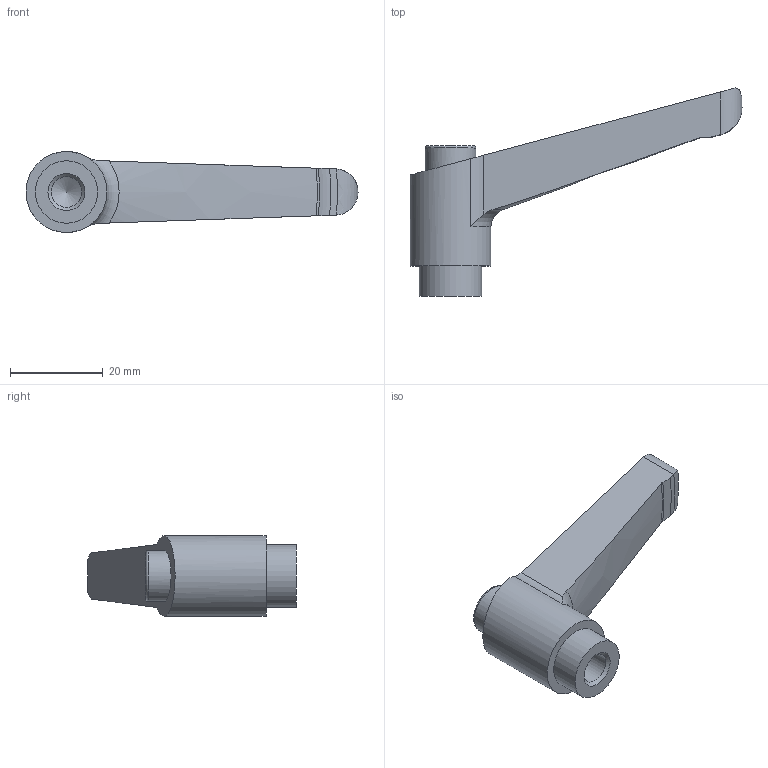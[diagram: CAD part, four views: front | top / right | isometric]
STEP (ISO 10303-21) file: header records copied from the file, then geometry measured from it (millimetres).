
FILE_DESCRIPTION( ( 'STEP AP203' ), '1' );
FILE_NAME( 'C:/Temp/Ganter_Step_05_03_2020/data/2_1/gn303_1/gn303_1_b/Adjustable hand lever GN 303.1-63-M8-SW-O.stp', '2020-03-05T11:21:56', ( 'License CC BY-ND 4.0' ), ( 'CADENAS' ), ' ', 'PARTsolutions', ' ' );
FILE_SCHEMA( ( 'CONFIG_CONTROL_DESIGN' ) );
Length unit declared in the file: millimetre
Products named in the file (1): _Adjustable hand lever GN 303.1-63-M8-SW-O
Bounding box: 71.75 x 45 x 17.5 mm (x, y, z)
Volume: 12872.7 mm3; surface area: 4737.9 mm2
Topology: 1 solids, 1 shells, 24 faces, 59 edges, 39 vertices
Faces by surface type: cylinder 7, plane 6, torus 6, cone 5
Full cylindrical faces by diameter (mm): 6.647 x1, 11 x1, 13.5 x1, 17.5 x1
Entity records: 828 total; most frequent: CARTESIAN_POINT 277, DIRECTION 100, ORIENTED_EDGE 98, EDGE_CURVE 49, AXIS2_PLACEMENT_3D 46, VERTEX_POINT 37, EDGE_LOOP 33, FACE_OUTER_BOUND 29
